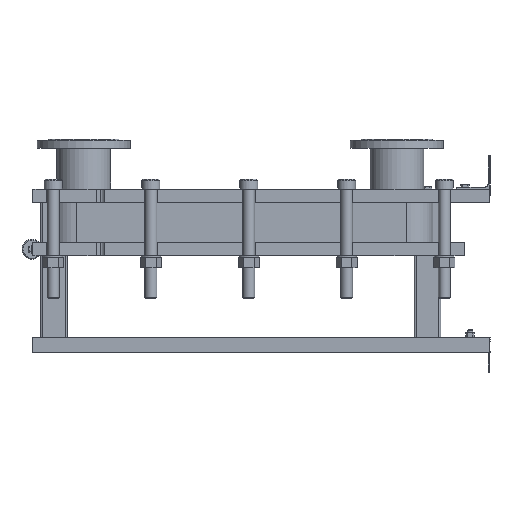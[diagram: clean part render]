
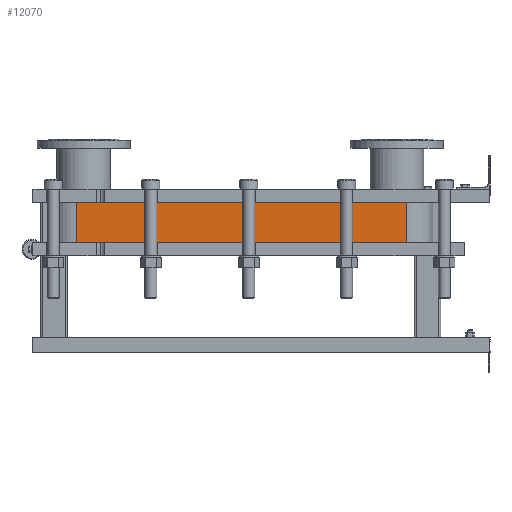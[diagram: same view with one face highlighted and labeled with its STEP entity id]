
A CAD part, left-side view. The second image highlights one B-rep face of the part: STEP entity #12070.
In plain terms, the highlighted planar face has unit normal (-1, 0, 0).
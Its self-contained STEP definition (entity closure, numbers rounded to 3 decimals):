
#1064=LINE('',#21140,#2164);
#1065=LINE('',#21144,#2165);
#1066=LINE('',#21146,#2166);
#1067=LINE('',#21147,#2167);
#2164=VECTOR('',#15790,10.);
#2165=VECTOR('',#15795,10.);
#2166=VECTOR('',#15796,10.);
#2167=VECTOR('',#15797,10.);
#3304=FACE_OUTER_BOUND('',#4091,.T.);
#4091=EDGE_LOOP('',(#9793,#9794,#9795,#9796));
#5677=VERTEX_POINT('',#21137);
#5678=VERTEX_POINT('',#21139);
#5679=VERTEX_POINT('',#21143);
#5680=VERTEX_POINT('',#21145);
#7118=EDGE_CURVE('',#5678,#5677,#1064,.T.);
#7120=EDGE_CURVE('',#5677,#5679,#1065,.T.);
#7121=EDGE_CURVE('',#5680,#5679,#1066,.T.);
#7122=EDGE_CURVE('',#5680,#5678,#1067,.T.);
#9793=ORIENTED_EDGE('',*,*,#7120,.T.);
#9794=ORIENTED_EDGE('',*,*,#7121,.F.);
#9795=ORIENTED_EDGE('',*,*,#7122,.T.);
#9796=ORIENTED_EDGE('',*,*,#7118,.T.);
#11441=PLANE('',#13191);
#12070=ADVANCED_FACE('',(#3304),#11441,.T.);
#13191=AXIS2_PLACEMENT_3D('',#21142,#15793,#15794);
#15790=DIRECTION('',(0.,0.,-1.));
#15793=DIRECTION('center_axis',(-1.,0.,0.));
#15794=DIRECTION('ref_axis',(0.,1.,0.));
#15795=DIRECTION('',(0.,-1.,0.));
#15796=DIRECTION('',(0.,0.,-1.));
#15797=DIRECTION('',(0.,1.,0.));
#21137=CARTESIAN_POINT('',(-248.152,1243.818,-120.75));
#21139=CARTESIAN_POINT('',(-248.152,1243.818,0.));
#21140=CARTESIAN_POINT('',(-248.152,1243.818,0.));
#21142=CARTESIAN_POINT('Origin',(-248.152,251.818,0.));
#21143=CARTESIAN_POINT('',(-248.152,251.818,-120.75));
#21144=CARTESIAN_POINT('',(-248.152,499.818,-120.75));
#21145=CARTESIAN_POINT('',(-248.152,251.818,0.));
#21146=CARTESIAN_POINT('',(-248.152,251.818,0.));
#21147=CARTESIAN_POINT('',(-248.152,251.818,0.));
